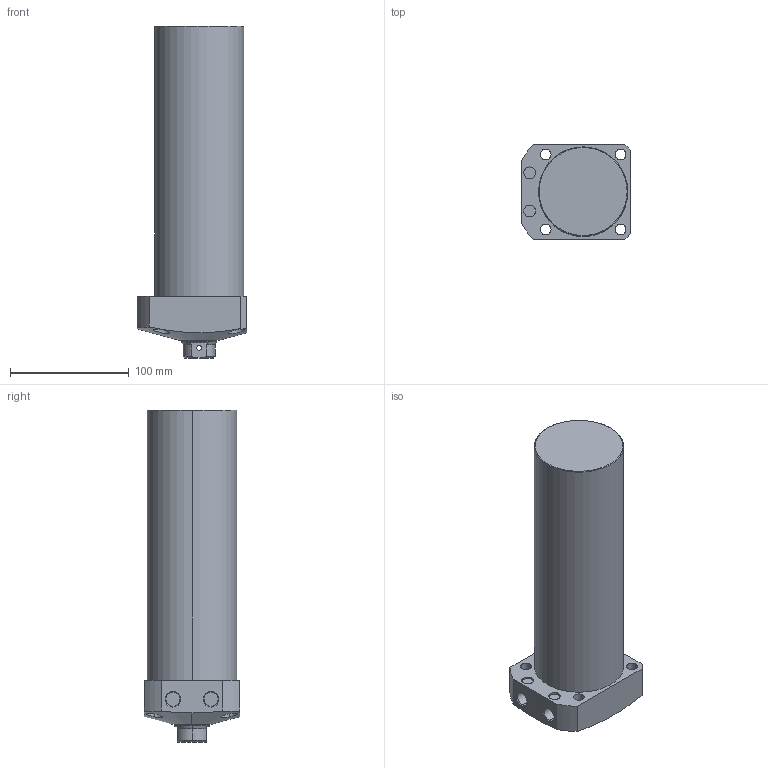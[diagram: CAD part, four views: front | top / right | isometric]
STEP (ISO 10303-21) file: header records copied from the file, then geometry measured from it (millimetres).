
FILE_DESCRIPTION (( 'STEP AP203' ), '1' );
FILE_NAME ('CLL-075CB-190.STEP', '2019-12-24T00:31:00', ( '' ), ( '' ), 'SwSTEP 2.0', 'SolidWorks 2015', '' );
FILE_SCHEMA (( 'CONFIG_CONTROL_DESIGN' ));
Length unit declared in the file: millimetre
Products named in the file (1): CLL-075CB-190
Bounding box: 92 x 80 x 279 mm (x, y, z)
Volume: 1221785.8 mm3; surface area: 85898.7 mm2
Topology: 1 solids, 1 shells, 78 faces, 183 edges, 116 vertices
Faces by surface type: cylinder 39, plane 22, cone 15, torus 2
Entity records: 2862 total; most frequent: CARTESIAN_POINT 955, DIRECTION 396, ORIENTED_EDGE 362, EDGE_CURVE 181, AXIS2_PLACEMENT_3D 164, VERTEX_POINT 116, EDGE_LOOP 101, CIRCLE 85
